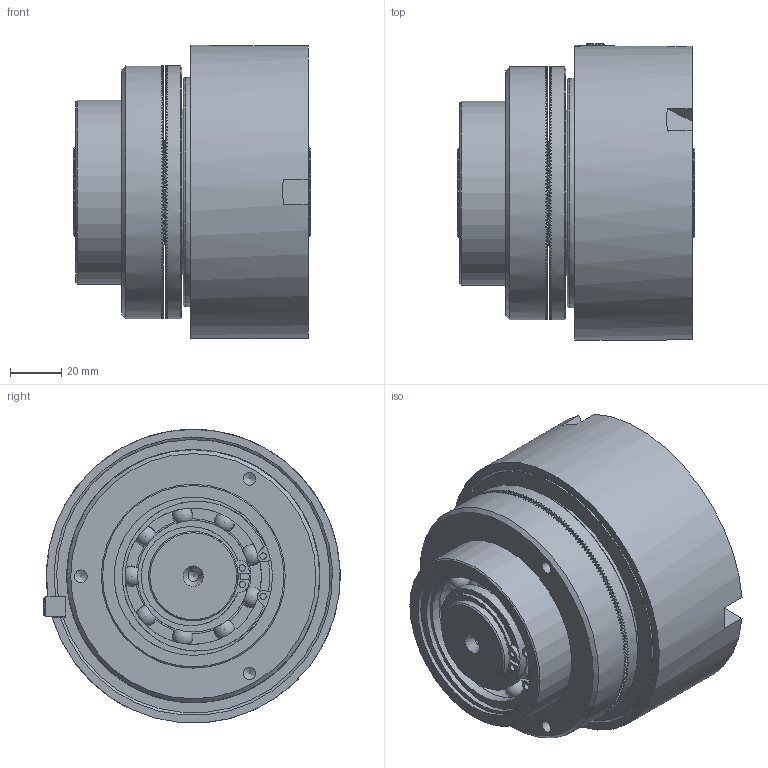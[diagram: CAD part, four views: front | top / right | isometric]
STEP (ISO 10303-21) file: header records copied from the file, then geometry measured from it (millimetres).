
FILE_DESCRIPTION(/* description */ (''),/* implementation_level */ '2;1');
FILE_NAME(/* name */ 'X:\INVENTOR\DISEGNI\03_Friz_Oleod_Pneum_Cil_Stat\03_20 DPR\03_20_01_01 DPR01\03_20_01_01 DPR01-2017@STEP.stp',/* time_stamp */ '2017-09-21T10:17:00+02:00',/* author */ ('stefano'),/* organization */ (''),/* preprocessor_version */ 'ST-DEVELOPER v16.1',/* originating_system */ 'Autodesk Inventor 2016',/* authorisation */ '');
FILE_SCHEMA (('CONFIG_CONTROL_DESIGN'));
Products named in the file (1): 03_20_01_01 DPR01_Sostituto_1 - F20
Bounding box: 93 x 116 x 114.83 mm (x, y, z)
Volume: 579834.8 mm3; surface area: 157922 mm2
Topology: 1 solids, 12 shells, 2625 faces, 7946 edges, 5265 vertices
Faces by surface type: plane 1894, cylinder 416, torus 257, sphere 38, cone 20
Full cylindrical faces by diameter (mm): 2.5 x8, 3.242 x1, 4 x3, 4.917 x3, 5 x2, 5.25 x3, 7 x1, 8.566 x1, 33 x2, 34.5 x2, 35 x8, 43.64 x6, 45 x1, 52 x1, 53.36 x6, 54.5 x1, 55 x3, 62 x7, 65 x2, 66 x1, 66.2 x2, 72 x1, 75 x1, 78.8 x2, 80 x1, 90 x4, 99 x2, 100 x1, 107 x1, 115 x1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
Entity records: 96974 total; most frequent: CARTESIAN_POINT 23485, DIRECTION 17051, ORIENTED_EDGE 15336, EDGE_CURVE 7666, AXIS2_PLACEMENT_3D 7395, VERTEX_POINT 5141, EDGE_LOOP 2831, ELLIPSE 2643
